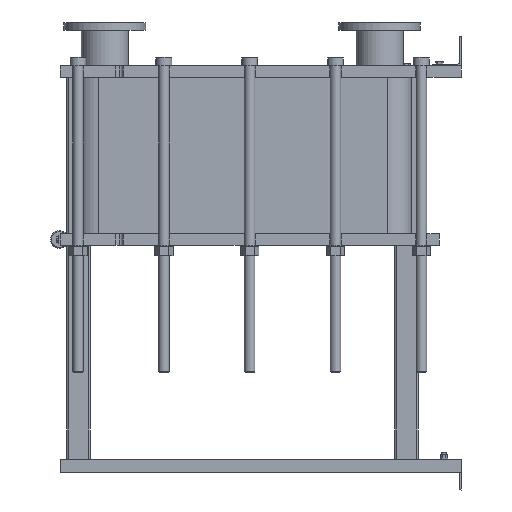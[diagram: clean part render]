
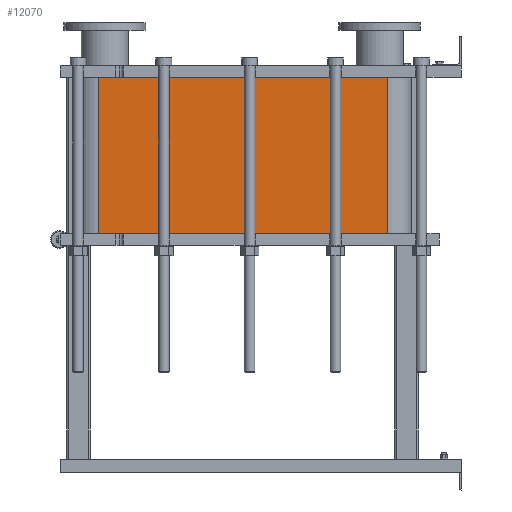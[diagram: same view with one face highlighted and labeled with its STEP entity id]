
A CAD part, left-side view. The second image highlights one B-rep face of the part: STEP entity #12070.
In plain terms, the highlighted planar face has unit normal (-1, 0, 0).
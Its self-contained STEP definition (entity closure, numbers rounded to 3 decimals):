
#1064=LINE('',#21140,#2164);
#1065=LINE('',#21144,#2165);
#1066=LINE('',#21146,#2166);
#1067=LINE('',#21147,#2167);
#2164=VECTOR('',#15790,10.);
#2165=VECTOR('',#15795,10.);
#2166=VECTOR('',#15796,10.);
#2167=VECTOR('',#15797,10.);
#3304=FACE_OUTER_BOUND('',#4091,.T.);
#4091=EDGE_LOOP('',(#9793,#9794,#9795,#9796));
#5677=VERTEX_POINT('',#21137);
#5678=VERTEX_POINT('',#21139);
#5679=VERTEX_POINT('',#21143);
#5680=VERTEX_POINT('',#21145);
#7118=EDGE_CURVE('',#5678,#5677,#1064,.T.);
#7120=EDGE_CURVE('',#5677,#5679,#1065,.T.);
#7121=EDGE_CURVE('',#5680,#5679,#1066,.T.);
#7122=EDGE_CURVE('',#5680,#5678,#1067,.T.);
#9793=ORIENTED_EDGE('',*,*,#7120,.T.);
#9794=ORIENTED_EDGE('',*,*,#7121,.F.);
#9795=ORIENTED_EDGE('',*,*,#7122,.T.);
#9796=ORIENTED_EDGE('',*,*,#7118,.T.);
#11441=PLANE('',#13191);
#12070=ADVANCED_FACE('',(#3304),#11441,.T.);
#13191=AXIS2_PLACEMENT_3D('',#21142,#15793,#15794);
#15790=DIRECTION('',(0.,0.,-1.));
#15793=DIRECTION('center_axis',(-1.,0.,0.));
#15794=DIRECTION('ref_axis',(0.,1.,0.));
#15795=DIRECTION('',(0.,-1.,0.));
#15796=DIRECTION('',(0.,0.,-1.));
#15797=DIRECTION('',(0.,1.,0.));
#21137=CARTESIAN_POINT('',(-248.152,1243.818,-534.75));
#21139=CARTESIAN_POINT('',(-248.152,1243.818,0.));
#21140=CARTESIAN_POINT('',(-248.152,1243.818,0.));
#21142=CARTESIAN_POINT('Origin',(-248.152,251.818,0.));
#21143=CARTESIAN_POINT('',(-248.152,251.818,-534.75));
#21144=CARTESIAN_POINT('',(-248.152,499.818,-534.75));
#21145=CARTESIAN_POINT('',(-248.152,251.818,0.));
#21146=CARTESIAN_POINT('',(-248.152,251.818,0.));
#21147=CARTESIAN_POINT('',(-248.152,251.818,0.));
